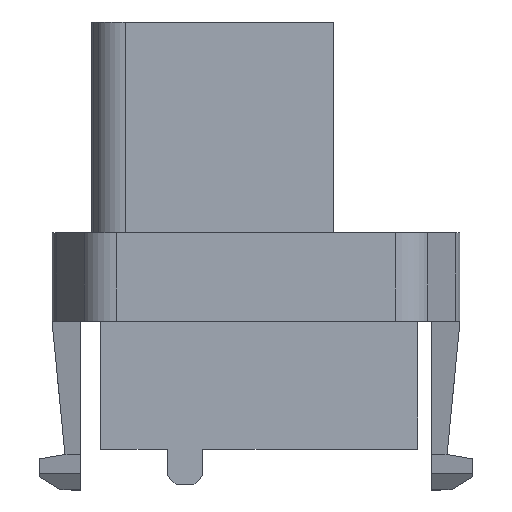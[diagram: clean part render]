
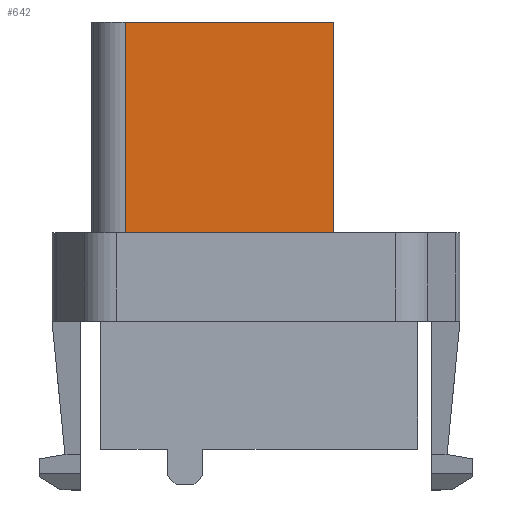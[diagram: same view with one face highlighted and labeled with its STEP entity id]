
A CAD part, top view. The second image highlights one B-rep face of the part: STEP entity #642.
In plain terms, the highlighted planar face has unit normal (0, 0, 1).
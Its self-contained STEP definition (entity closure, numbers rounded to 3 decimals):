
#642 = ADVANCED_FACE ( 'NONE', ( #4482 ), #4476, .T. ) ;
#742 = VERTEX_POINT ( 'NONE', #5609 ) ;
#863 = VERTEX_POINT ( 'NONE', #5666 ) ;
#1516 = CARTESIAN_POINT ( 'NONE',  ( 1.75, 2., 2.24 ) ) ;
#1821 = CARTESIAN_POINT ( 'NONE',  ( 1.75, 6.75, 2.24 ) ) ;
#2448 = EDGE_CURVE ( 'NONE', #742, #863, #6301, .T. ) ;
#2594 = ORIENTED_EDGE ( 'NONE', *, *, #3652, .F. ) ;
#3440 = EDGE_LOOP ( 'NONE', ( #2594, #7973, #6030, #5998 ) ) ;
#3652 = EDGE_CURVE ( 'NONE', #6787, #863, #5228, .T. ) ;
#3653 = EDGE_CURVE ( 'NONE', #8283, #6787, #5231, .T. ) ;
#3707 = EDGE_CURVE ( 'NONE', #8283, #742, #5394, .T. ) ;
#4476 = PLANE ( 'NONE',  #8173 ) ;
#4478 = CARTESIAN_POINT ( 'NONE',  ( -8.727, 6.75, 2.24 ) ) ;
#4482 = FACE_OUTER_BOUND ( 'NONE', #3440, .T. ) ;
#4484 = DIRECTION ( 'NONE',  ( 0., 0., 1. ) ) ;
#4485 = DIRECTION ( 'NONE',  ( 1., 0., 0. ) ) ;
#4706 = VECTOR ( 'NONE', #5230, 1000. ) ;
#4707 = VECTOR ( 'NONE', #5233, 1000. ) ;
#4758 = VECTOR ( 'NONE', #5441, 1000. ) ;
#5228 = LINE ( 'NONE', #5229, #4706 ) ;
#5229 = CARTESIAN_POINT ( 'NONE',  ( -8.727, 2., 2.24 ) ) ;
#5230 = DIRECTION ( 'NONE',  ( -1., 0., 0. ) ) ;
#5231 = LINE ( 'NONE', #5232, #4707 ) ;
#5232 = CARTESIAN_POINT ( 'NONE',  ( 1.75, 6.75, 2.24 ) ) ;
#5233 = DIRECTION ( 'NONE',  ( 0., -1., 0. ) ) ;
#5385 = CARTESIAN_POINT ( 'NONE',  ( -8.727, 6.75, 2.24 ) ) ;
#5394 = LINE ( 'NONE', #5385, #4758 ) ;
#5441 = DIRECTION ( 'NONE',  ( -1., 0., 0. ) ) ;
#5609 = CARTESIAN_POINT ( 'NONE',  ( -2.95, 6.75, 2.24 ) ) ;
#5666 = CARTESIAN_POINT ( 'NONE',  ( -2.95, 2., 2.24 ) ) ;
#5998 = ORIENTED_EDGE ( 'NONE', *, *, #2448, .T. ) ;
#6030 = ORIENTED_EDGE ( 'NONE', *, *, #3707, .T. ) ;
#6296 = CARTESIAN_POINT ( 'NONE',  ( -2.95, 6.75, 2.24 ) ) ;
#6301 = LINE ( 'NONE', #6296, #7345 ) ;
#6310 = DIRECTION ( 'NONE',  ( 0., -1., 0. ) ) ;
#6787 = VERTEX_POINT ( 'NONE', #1516 ) ;
#7345 = VECTOR ( 'NONE', #6310, 1000. ) ;
#7973 = ORIENTED_EDGE ( 'NONE', *, *, #3653, .F. ) ;
#8173 = AXIS2_PLACEMENT_3D ( 'NONE', #4478, #4484, #4485 ) ;
#8283 = VERTEX_POINT ( 'NONE', #1821 ) ;
